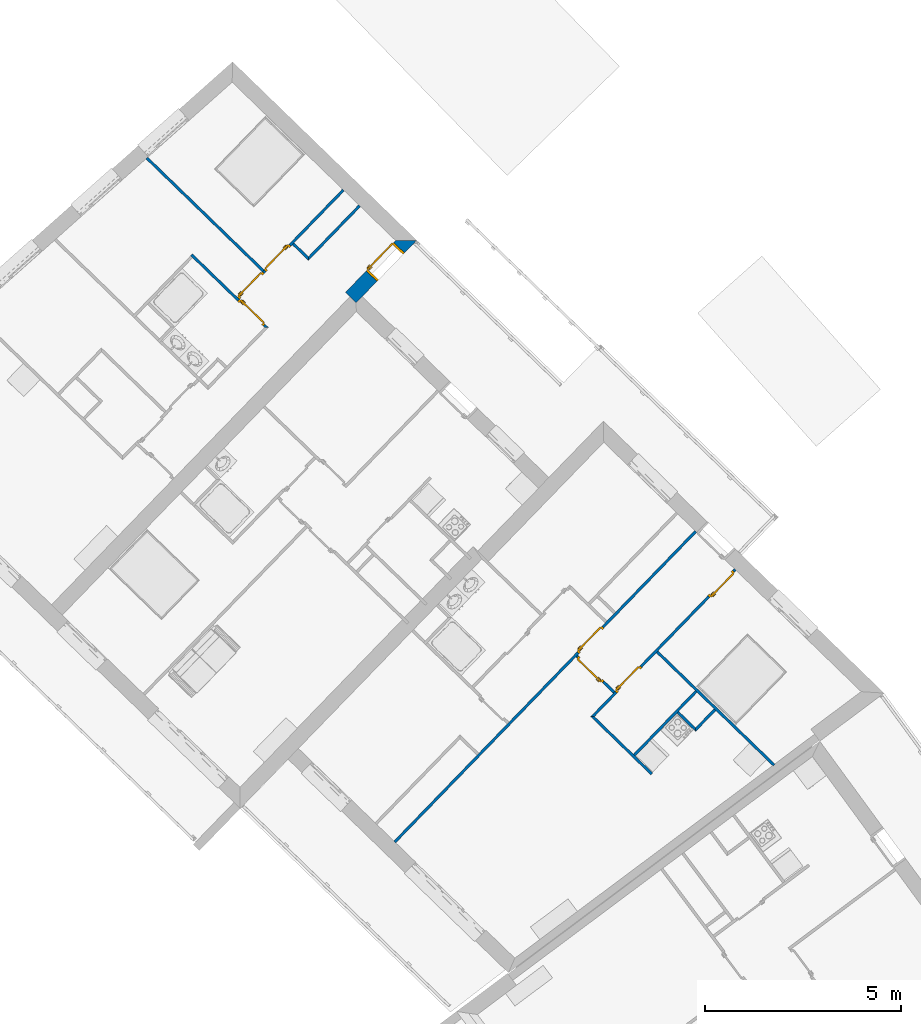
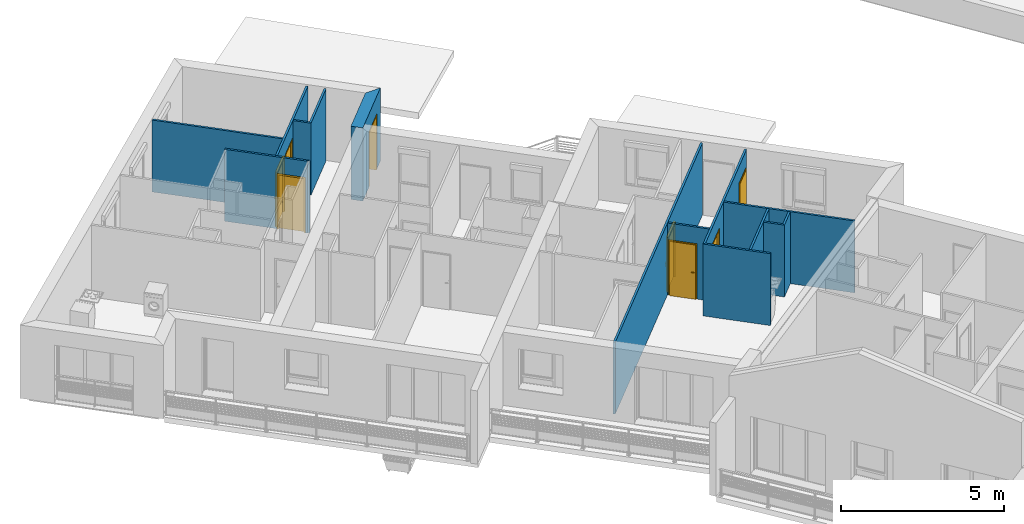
# One storey, part 18 of 121: 14 walls, 8 doors, 8 openings.
"""IFC2X3 building model written with IfcOpenShell, lengths in metres."""

from ifc_helpers import new_model, entity, si_unit, converted_unit, derived_unit, money_unit, direction, frame, origin_with_axes, origin_2d_with_axis, place, context, subcontext, project, spatial, polyline, rectangle, outline, extrude, faceted_brep, source, transform, mapped, material, layer, layer_set, layer_usage, type_object, element, fill, save


model = new_model("IFC2X3")

# Units and contexts
model_context = context("Model", 3, precision=1e-05, world=origin_with_axes(), true_north=direction((0.0, 1.0)))
body_context = subcontext(model_context, "Body", "Model", "MODEL_VIEW")
ifc_project = project(units=[si_unit("LENGTHUNIT", "METRE"), si_unit("AREAUNIT", "SQUARE_METRE"), si_unit("VOLUMEUNIT", "CUBIC_METRE"), converted_unit("PLANEANGLEUNIT", "DEGREE", entity("IfcPlaneAngleMeasure", 0.0174532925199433), si_unit("PLANEANGLEUNIT", "RADIAN"), dimensions=[0, 0, 0, 0, 0, 0, 0]), money_unit("CHF"), converted_unit("TIMEUNIT", "Year", entity("IfcTimeMeasure", 31557600.0), si_unit("TIMEUNIT", "SECOND"), dimensions=[0, 0, 1, 0, 0, 0, 0]), si_unit("MASSUNIT", "GRAM", prefix="KILO"), si_unit("THERMODYNAMICTEMPERATUREUNIT", "DEGREE_CELSIUS"), si_unit("LUMINOUSINTENSITYUNIT", "LUMEN"), si_unit("ENERGYUNIT", "JOULE", prefix="MEGA"), derived_unit("THERMALCONDUCTANCEUNIT", [(si_unit("POWERUNIT", "WATT"), 1), (si_unit("LENGTHUNIT", "METRE"), -1), (si_unit("THERMODYNAMICTEMPERATUREUNIT", "KELVIN"), -1)]), derived_unit("SPECIFICHEATCAPACITYUNIT", [(si_unit("ENERGYUNIT", "JOULE"), 1), (si_unit("MASSUNIT", "GRAM", prefix="KILO"), -1), (si_unit("THERMODYNAMICTEMPERATUREUNIT", "KELVIN"), -1)]), derived_unit("MASSDENSITYUNIT", [(si_unit("MASSUNIT", "GRAM", prefix="KILO"), 1), (si_unit("VOLUMEUNIT", "CUBIC_METRE"), -1)])], contexts=[model_context])

# Site, building, storey
site_placement = place(None, origin_with_axes())
site = spatial("IfcSite", under=ifc_project, at=site_placement, Name="Site", CompositionType="ELEMENT")
building_placement = place(site_placement, origin_with_axes())
building = spatial("IfcBuilding", under=site, at=building_placement, Name="Bâtiment", CompositionType="ELEMENT")
storey_placement = place(building_placement, frame((0.0, 0.0, 2.75), z_axis=(0.0, 0.0, 1.0), x_axis=(1.0, 0.0, 0.0)))
storey = spatial("IfcBuildingStorey", under=building, at=storey_placement, Name="Etage 1", CompositionType="ELEMENT", Elevation=2.75)

# Wall
ifc_material_1 = material(Name="Hachure solide 268963992")
ifc_layer_1 = layer(ifc_material_1, 0.07, ventilated="UNKNOWN")
ifc_layer_set_1 = layer_set([ifc_layer_1], Name="Cloison 70 0826278243")
ifc_layer_usage_1 = layer_usage(ifc_layer_set_1, "AXIS2", "POSITIVE", 0.0)
wall_type_1 = type_object("IfcWallType", Name="Cloison 70 0826278243 70", PredefinedType="NOTDEFINED")
wall_1_placement = place(storey_placement, frame((9534.341174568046, -1069.380349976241, 57.7), z_axis=(0.0, 0.0, 1.0), x_axis=(-0.7181763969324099, 0.6958610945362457, 0.0)))
element("IfcWallStandardCase", 1, at=wall_1_placement, inside=storey, type_object=wall_type_1, material=ifc_layer_usage_1, Name="Mur-149", context=body_context, shape_type="SweptSolid", body=[
    extrude(outline(polyline([(0.0, 0.0), (0.6000000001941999, 0.0), (0.600000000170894, 0.06999999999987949), (-0.07000000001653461, 0.06999999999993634), (0.0, 0.0)])), origin_with_axes(), (0.0, 0.0, 1.0), 2.7),
])

# Wall, opening, door
ifc_layer_usage_2 = layer_usage(ifc_layer_set_1, "AXIS2", "POSITIVE", 0.0)
wall_2_placement = place(storey_placement, frame((9534.584027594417, -1064.073933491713, 57.7), z_axis=(0.0, 0.0, 1.0), x_axis=(-0.695861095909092, -0.7181763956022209, 0.0)))
wall_2 = element("IfcWallStandardCase", 2, at=wall_2_placement, inside=storey, type_object=wall_type_1, material=ifc_layer_usage_2, Name="Mur-149", context=body_context, shape_type="SweptSolid", body=[
    extrude(outline(polyline([(0.3799999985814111, 0.0), (11.41300708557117, 0.0), (11.41300708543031, 0.06999999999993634), (0.3799999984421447, 0.07000000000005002), (0.3799999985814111, 0.0)])), origin_with_axes(), (0.0, 0.0, 1.0), 2.7),
])
opening_1_placement = place(wall_2_placement, frame((4.240435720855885, 0.0, 0.0), z_axis=(0.0, 0.0, 1.0), x_axis=(1.0, 0.0, 0.0)))
opening_1 = element("IfcOpeningElement", 3, at=opening_1_placement, cuts=wall_2, Name="Por-315", context=body_context, shape_type="SweptSolid", body=[
    extrude(rectangle(XDim=0.9099999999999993, YDim=2.079999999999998, at=origin_2d_with_axis()), frame((0.0, 0.06999999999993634, 1.039999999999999), z_axis=(0.0, -1.0, 0.0), x_axis=(-1.0, 0.0, 0.0)), (0.0, 0.0, 1.0), 0.14),
])
door_style = type_object("IfcDoorStyle", Name="Porte_1v", ConstructionType="NOTDEFINED", OperationType="NOTDEFINED", ParameterTakesPrecedence=False, Sizeable=False)
shared_shape_1 = source(origin_with_axes(), body_context, "Body", "Brep", [
    faceted_brep([(0.455, 0.0, 0.0), (0.415, 0.0, 0.0), (0.415, 0.0, 2.04), (-0.415, 0.0, 2.04), (-0.415, 0.0, 0.0), (-0.455, 0.0, 0.0), (-0.455, 0.0, 2.08), (0.455, 0.0, 2.08), (0.455, -0.07, 0.0), (0.4, -0.07, 0.0), (0.4, -0.015, 0.0), (0.415, -0.015, 0.0), (0.415, -0.015, 2.04), (-0.415, -0.015, 2.04), (-0.415, -0.015, 0.0), (-0.4, -0.015, 0.0), (-0.4, -0.07, 0.0), (-0.455, -0.07, 0.0), (-0.455, -0.07, 2.08), (0.455, -0.07, 2.08), (-0.4, -0.07, 2.025), (0.4, -0.07, 2.025), (0.4, -0.015, 2.025), (-0.4, -0.015, 2.025)], [[[0, 1, 2, 3, 4, 5, 6, 7]], [[0, 8, 9, 10, 11, 1]], [[1, 11, 12, 2]], [[2, 12, 13, 3]], [[3, 13, 14, 4]], [[5, 4, 14, 15, 16, 17]], [[18, 6, 5, 17]], [[19, 7, 6, 18]], [[8, 0, 7, 19]], [[9, 8, 19, 18, 17, 16, 20, 21]], [[10, 9, 21, 22]], [[11, 10, 22, 23, 15, 14, 13, 12]], [[23, 20, 16, 15]], [[22, 21, 20, 23]]]),
    faceted_brep([(-0.35, -0.015, 0.9), (-0.39, -0.015, 0.9), (-0.39, -0.015, 1.1), (-0.35, -0.015, 1.1), (-0.35, -0.025, 0.9), (-0.39, -0.025, 0.9), (-0.39, -0.025, 1.1), (-0.35, -0.025, 1.1)], [[[0, 1, 2, 3]], [[1, 0, 4, 5]], [[2, 1, 5, 6]], [[3, 2, 6, 7]], [[0, 3, 7, 4]], [[5, 4, 7, 6]]]),
    faceted_brep([(-0.28, -0.025, 1.0), (-0.38, -0.025, 1.0), (-0.38, -0.025, 1.02), (-0.28, -0.025, 1.02), (-0.28, -0.045, 1.0), (-0.38, -0.045, 1.0), (-0.38, -0.045, 1.02), (-0.28, -0.045, 1.02)], [[[0, 1, 2, 3]], [[1, 0, 4, 5]], [[2, 1, 5, 6]], [[3, 2, 6, 7]], [[0, 3, 7, 4]], [[5, 4, 7, 6]]]),
    faceted_brep([(-0.35, 0.035, 0.9), (-0.39, 0.035, 0.9), (-0.39, 0.035, 1.1), (-0.35, 0.035, 1.1), (-0.35, 0.025, 0.9), (-0.39, 0.025, 0.9), (-0.39, 0.025, 1.1), (-0.35, 0.025, 1.1)], [[[0, 1, 2, 3]], [[1, 0, 4, 5]], [[2, 1, 5, 6]], [[3, 2, 6, 7]], [[0, 3, 7, 4]], [[5, 4, 7, 6]]]),
    faceted_brep([(-0.28, 0.05500000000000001, 1.0), (-0.38, 0.05500000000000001, 1.0), (-0.38, 0.05500000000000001, 1.02), (-0.28, 0.05500000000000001, 1.02), (-0.28, 0.035, 1.0), (-0.38, 0.035, 1.0), (-0.38, 0.035, 1.02), (-0.28, 0.035, 1.02)], [[[0, 1, 2, 3]], [[1, 0, 4, 5]], [[2, 1, 5, 6]], [[3, 2, 6, 7]], [[0, 3, 7, 4]], [[5, 4, 7, 6]]]),
    faceted_brep([(-0.415, 0.025, 0.0), (0.415, 0.025, 0.0), (0.415, -0.015, 0.0), (-0.415, -0.015, 0.0), (-0.415, 0.025, 2.04), (0.415, 0.025, 2.04), (0.415, -0.015, 2.04), (-0.415, -0.015, 2.04)], [[[0, 1, 2, 3]], [[0, 4, 5, 1]], [[1, 5, 6, 2]], [[3, 2, 6, 7]], [[4, 0, 3, 7]], [[5, 4, 7, 6]]]),
])
door_1_placement = place(opening_1_placement, frame((0.4149999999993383, 0.0, 0.0), z_axis=(0.0, 0.0, 1.0), x_axis=(-1.0, 0.0, 0.0)))
door_1 = element("IfcDoor", 4, at=door_1_placement, inside=storey, type_object=door_style, Name="Por-315", OverallHeight=2.04, OverallWidth=0.83, context=body_context, shape_type="MappedRepresentation", body=[
    mapped(shared_shape_1, transform((0.4150000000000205, 0.0, 0.0))),
])
fill(opening_1, door_1)

# Walls
ifc_layer_usage_3 = layer_usage(ifc_layer_set_1, "AXIS2", "POSITIVE", 0.0)
wall_3_placement = place(storey_placement, frame((9523.384226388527, -1057.7469375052, 57.7), z_axis=(0.0, 0.0, 1.0), x_axis=(-0.7181763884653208, 0.6958611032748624, 0.0)))
element("IfcWallStandardCase", 5, at=wall_3_placement, inside=storey, type_object=wall_type_1, material=ifc_layer_usage_3, Name="Mur-149", context=body_context, shape_type="SweptSolid", body=[
    extrude(outline(polyline([(0.06999999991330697, 0.0), (4.200674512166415, 0.0), (4.205864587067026, 0.07000000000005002), (0.06999999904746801, 0.07000000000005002), (0.06999999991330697, 0.0)])), origin_with_axes(), (0.0, 0.0, 1.0), 2.7),
])
ifc_layer_usage_4 = layer_usage(ifc_layer_set_1, "AXIS2", "NEGATIVE", 0.0)
wall_4_placement = place(storey_placement, frame((9524.463749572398, -1057.46153290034, 57.7), z_axis=(0.0, 0.0, 1.0), x_axis=(-0.7181763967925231, 0.6958610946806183, 0.0)))
element("IfcWallStandardCase", 6, at=wall_4_placement, inside=storey, type_object=wall_type_1, material=ifc_layer_usage_4, Name="Mur-149", context=body_context, shape_type="SweptSolid", body=[
    extrude(outline(polyline([(0.07000000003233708, -0.07000000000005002), (0.5766861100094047, -0.06999999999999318), (0.5766861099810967, 0.0), (0.0, 0.0), (0.07000000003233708, -0.07000000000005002)])), origin_with_axes(), (0.0, 0.0, 1.0), 2.7),
])

# Wall, opening, door
ifc_layer_usage_5 = layer_usage(ifc_layer_set_1, "AXIS2", "NEGATIVE", 0.0)
wall_5_placement = place(storey_placement, frame((9523.393293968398, -1059.21775960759, 57.7), z_axis=(0.0, 0.0, 1.0), x_axis=(-0.7181763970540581, 0.6958610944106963, 0.0)))
wall_5 = element("IfcWallStandardCase", 7, at=wall_5_placement, inside=storey, type_object=wall_type_1, material=ifc_layer_usage_5, Name="Mur-149", context=body_context, shape_type="SweptSolid", body=[
    extrude(outline(polyline([(0.0, -0.06999999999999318), (2.69526710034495, -0.07000000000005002), (2.695267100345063, 0.0), (0.07000000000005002, 0.0), (0.0, -0.06999999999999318)])), origin_with_axes(), (0.0, 0.0, 1.0), 2.7),
])
opening_2_placement = place(wall_5_placement, frame((0.5749999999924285, 0.0, 0.0), z_axis=(0.0, 0.0, 1.0), x_axis=(1.0, 0.0, 0.0)))
opening_2 = element("IfcOpeningElement", 8, at=opening_2_placement, cuts=wall_5, Name="Por-308", context=body_context, shape_type="SweptSolid", body=[
    extrude(rectangle(XDim=0.9099999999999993, YDim=2.079999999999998, at=origin_2d_with_axis()), frame((0.0, 0.07000000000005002, 1.039999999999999), z_axis=(0.0, -1.0, 0.0), x_axis=(-1.0, 0.0, 0.0)), (0.0, 0.0, 1.0), 0.14),
])
door_2_placement = place(opening_2_placement, frame((0.4149999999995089, 0.0, 0.0), z_axis=(0.0, 0.0, 1.0), x_axis=(-1.0, 0.0, 0.0)))
door_2 = element("IfcDoor", 9, at=door_2_placement, inside=storey, type_object=door_style, Name="Por-308", OverallHeight=2.04, OverallWidth=0.83, context=body_context, shape_type="MappedRepresentation", body=[
    mapped(shared_shape_1, transform((0.4149999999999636, 0.06999999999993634, 0.0))),
])
fill(opening_2, door_2)

# Wall
ifc_layer_usage_6 = layer_usage(ifc_layer_set_1, "AXIS2", "POSITIVE", 0.0)
wall_6_placement = place(storey_placement, frame((9524.463749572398, -1057.46153290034, 57.7), z_axis=(0.0, 0.0, 1.0), x_axis=(0.6958610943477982, 0.7181763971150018, 0.0)))
element("IfcWallStandardCase", 10, at=wall_6_placement, inside=storey, type_object=wall_type_1, material=ifc_layer_usage_6, Name="Mur-149", context=body_context, shape_type="SweptSolid", body=[
    extrude(outline(polyline([(0.0, 0.0), (1.913437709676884, 0.0), (1.913437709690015, 0.06999999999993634), (0.07000000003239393, 0.06999999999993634), (0.0, 0.0)])), origin_with_axes(), (0.0, 0.0, 1.0), 2.7),
])

# Wall, openings, doors
ifc_layer_usage_7 = layer_usage(ifc_layer_set_1, "AXIS2", "POSITIVE", 0.0)
wall_7_placement = place(storey_placement, frame((9522.65357227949, -1058.501022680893, 57.7), z_axis=(0.0, 0.0, 1.0), x_axis=(0.6958610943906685, 0.7181763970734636, 0.0)))
wall_7 = element("IfcWallStandardCase", 11, at=wall_7_placement, inside=storey, type_object=wall_type_1, material=ifc_layer_usage_7, Name="Mur-149", context=body_context, shape_type="SweptSolid", body=[
    extrude(outline(polyline([(0.07000000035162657, 0.0), (3.919606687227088, 0.0), (3.919606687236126, 0.06999999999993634), (0.07000000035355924, 0.07000000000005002), (0.07000000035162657, 0.0)])), origin_with_axes(), (0.0, 0.0, 1.0), 2.7),
])
opening_3_placement = place(wall_7_placement, frame((0.5249999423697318, 0.0, 0.0), z_axis=(0.0, 0.0, 1.0), x_axis=(1.0, 0.0, 0.0)))
opening_3 = element("IfcOpeningElement", 12, at=opening_3_placement, cuts=wall_7, Name="Por-308", context=body_context, shape_type="SweptSolid", body=[
    extrude(rectangle(XDim=0.9099999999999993, YDim=2.079999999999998, at=origin_2d_with_axis()), frame((0.0, -0.07000000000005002, 1.039999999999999), z_axis=(0.0, 1.0, 0.0), x_axis=(1.0, 0.0, 0.0)), (0.0, 0.0, 1.0), 0.14),
])
opening_4_placement = place(wall_7_placement, frame((1.504999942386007, 0.0, 0.0), z_axis=(0.0, 0.0, 1.0), x_axis=(1.0, 0.0, 0.0)))
opening_4 = element("IfcOpeningElement", 13, at=opening_4_placement, cuts=wall_7, Name="Por-308", context=body_context, shape_type="SweptSolid", body=[
    extrude(rectangle(XDim=0.9099999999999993, YDim=2.079999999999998, at=origin_2d_with_axis()), frame((0.0, -0.06999999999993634, 1.039999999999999), z_axis=(0.0, -1.0, 0.0), x_axis=(-1.0, 0.0, 0.0)), (0.0, 0.0, -1.0), 0.14),
])
door_3_placement = place(opening_3_placement, frame((-0.4150000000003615, 0.0, 0.0), z_axis=(0.0, 0.0, 1.0), x_axis=(1.0, 0.0, 0.0)))
door_3 = element("IfcDoor", 14, at=door_3_placement, inside=storey, type_object=door_style, Name="Por-308", OverallHeight=2.04, OverallWidth=0.83, context=body_context, shape_type="MappedRepresentation", body=[
    mapped(shared_shape_1, transform((0.4149999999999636, 0.07000000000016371, 0.0))),
])
fill(opening_3, door_3)
shared_shape_2 = source(origin_with_axes(), body_context, "Body", "Brep", [
    faceted_brep([(-0.455, 0.0, 0.0), (-0.455, 0.0, 2.08), (0.455, 0.0, 2.08), (0.455, 0.0, 0.0), (0.415, 0.0, 0.0), (0.415, 0.0, 2.04), (-0.415, 0.0, 2.04), (-0.415, 0.0, 0.0), (-0.455, -0.07, 0.0), (-0.455, -0.07, 2.08), (0.455, -0.07, 2.08), (0.455, -0.07, 0.0), (0.4, -0.07, 0.0), (0.4, -0.015, 0.0), (0.415, -0.015, 0.0), (0.415, -0.015, 2.04), (-0.415, -0.015, 2.04), (-0.415, -0.015, 0.0), (-0.4, -0.015, 0.0), (-0.4, -0.07, 0.0), (-0.4, -0.07, 2.025), (0.4, -0.07, 2.025), (0.4, -0.015, 2.025), (-0.4, -0.015, 2.025)], [[[0, 1, 2, 3, 4, 5, 6, 7]], [[8, 9, 1, 0]], [[9, 10, 2, 1]], [[10, 11, 3, 2]], [[3, 11, 12, 13, 14, 4]], [[5, 4, 14, 15]], [[6, 5, 15, 16]], [[7, 6, 16, 17]], [[0, 7, 17, 18, 19, 8]], [[19, 20, 21, 12, 11, 10, 9, 8]], [[22, 13, 12, 21]], [[17, 16, 15, 14, 13, 22, 23, 18]], [[18, 23, 20, 19]], [[23, 22, 21, 20]]]),
    faceted_brep([(0.35, -0.015, 0.9), (0.35, -0.015, 1.1), (0.39, -0.015, 1.1), (0.39, -0.015, 0.9), (0.35, -0.025, 0.9), (0.35, -0.025, 1.1), (0.39, -0.025, 1.1), (0.39, -0.025, 0.9)], [[[0, 1, 2, 3]], [[0, 4, 5, 1]], [[1, 5, 6, 2]], [[2, 6, 7, 3]], [[3, 7, 4, 0]], [[7, 6, 5, 4]]]),
    faceted_brep([(0.28, -0.025, 1.0), (0.28, -0.025, 1.02), (0.38, -0.025, 1.02), (0.38, -0.025, 1.0), (0.28, -0.045, 1.0), (0.28, -0.045, 1.02), (0.38, -0.045, 1.02), (0.38, -0.045, 1.0)], [[[0, 1, 2, 3]], [[0, 4, 5, 1]], [[1, 5, 6, 2]], [[2, 6, 7, 3]], [[3, 7, 4, 0]], [[7, 6, 5, 4]]]),
    faceted_brep([(0.35, 0.035, 0.9), (0.35, 0.035, 1.1), (0.39, 0.035, 1.1), (0.39, 0.035, 0.9), (0.35, 0.025, 0.9), (0.35, 0.025, 1.1), (0.39, 0.025, 1.1), (0.39, 0.025, 0.9)], [[[0, 1, 2, 3]], [[0, 4, 5, 1]], [[1, 5, 6, 2]], [[2, 6, 7, 3]], [[3, 7, 4, 0]], [[7, 6, 5, 4]]]),
    faceted_brep([(0.28, 0.05500000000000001, 1.0), (0.28, 0.05500000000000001, 1.02), (0.38, 0.05500000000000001, 1.02), (0.38, 0.05500000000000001, 1.0), (0.28, 0.035, 1.0), (0.28, 0.035, 1.02), (0.38, 0.035, 1.02), (0.38, 0.035, 1.0)], [[[0, 1, 2, 3]], [[0, 4, 5, 1]], [[1, 5, 6, 2]], [[2, 6, 7, 3]], [[3, 7, 4, 0]], [[7, 6, 5, 4]]]),
    faceted_brep([(0.415, 0.025, 0.0), (0.415, -0.015, 0.0), (-0.415, -0.015, 0.0), (-0.415, 0.025, 0.0), (0.415, 0.025, 2.04), (0.415, -0.015, 2.04), (-0.415, -0.015, 2.04), (-0.415, 0.025, 2.04)], [[[0, 1, 2, 3]], [[4, 5, 1, 0]], [[1, 5, 6, 2]], [[3, 2, 6, 7]], [[0, 3, 7, 4]], [[7, 6, 5, 4]]]),
])
door_4_placement = place(opening_4_placement, frame((-0.4150000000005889, 0.0, 0.0), z_axis=(0.0, 0.0, 1.0), x_axis=(1.0, 0.0, 0.0)))
door_4 = element("IfcDoor", 15, at=door_4_placement, inside=storey, type_object=door_style, Name="Por-308", OverallHeight=2.04, OverallWidth=0.83, context=body_context, shape_type="MappedRepresentation", body=[
    mapped(shared_shape_2, transform((0.4149999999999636, 0.07000000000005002, 0.0))),
])
fill(opening_4, door_4)

ifc_layer_usage_8 = layer_usage(ifc_layer_set_1, "AXIS2", "POSITIVE", 0.0)
wall_8_placement = place(storey_placement, frame((9535.5881225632, -1065.046829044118, 57.7), z_axis=(0.0, 0.0, 1.0), x_axis=(-0.6958610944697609, -0.7181763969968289, 0.0)))
wall_8 = element("IfcWallStandardCase", 16, at=wall_8_placement, inside=storey, type_object=wall_type_1, material=ifc_layer_usage_8, Name="Mur-149", context=body_context, shape_type="SweptSolid", body=[
    extrude(outline(polyline([(0.3800000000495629, 0.0), (5.641309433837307, 0.0), (5.571309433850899, 0.06999999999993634), (0.3800000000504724, 0.06999999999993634), (0.3800000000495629, 0.0)])), origin_with_axes(), (0.0, 0.0, 1.0), 2.7),
])
opening_5_placement = place(wall_8_placement, frame((4.288332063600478, 0.0, 0.0), z_axis=(0.0, 0.0, 1.0), x_axis=(1.0, 0.0, 0.0)))
opening_5 = element("IfcOpeningElement", 17, at=opening_5_placement, cuts=wall_8, Name="Por-316", context=body_context, shape_type="SweptSolid", body=[
    extrude(rectangle(XDim=0.9099999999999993, YDim=2.079999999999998, at=origin_2d_with_axis()), frame((0.0, 0.06999999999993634, 1.039999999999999), z_axis=(0.0, -1.0, 0.0), x_axis=(-1.0, 0.0, 0.0)), (0.0, 0.0, 1.0), 0.14),
])
opening_6_placement = place(wall_8_placement, frame((0.891687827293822, 0.0, 0.0), z_axis=(0.0, 0.0, 1.0), x_axis=(1.0, 0.0, 0.0)))
opening_6 = element("IfcOpeningElement", 18, at=opening_6_placement, cuts=wall_8, Name="Por-314", context=body_context, shape_type="SweptSolid", body=[
    extrude(rectangle(XDim=0.9099999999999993, YDim=2.079999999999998, at=origin_2d_with_axis()), frame((0.0, -0.07000000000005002, 1.039999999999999), z_axis=(0.0, -1.0, 0.0), x_axis=(-1.0, 0.0, 0.0)), (0.0, 0.0, -1.0), 0.14),
])
door_5_placement = place(opening_5_placement, frame((0.4149999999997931, 0.0, 0.0), z_axis=(0.0, 0.0, 1.0), x_axis=(-1.0, 0.0, 0.0)))
door_5 = element("IfcDoor", 19, at=door_5_placement, inside=storey, type_object=door_style, Name="Por-316", OverallHeight=2.04, OverallWidth=0.83, context=body_context, shape_type="MappedRepresentation", body=[
    mapped(shared_shape_1, transform((0.4150000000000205, 0.0, 0.0))),
])
fill(opening_5, door_5)
door_6_placement = place(opening_6_placement, frame((-0.4150000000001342, 0.0, 0.0), z_axis=(0.0, 0.0, 1.0), x_axis=(1.0, 0.0, 0.0)))
door_6 = element("IfcDoor", 20, at=door_6_placement, inside=storey, type_object=door_style, Name="Por-314", OverallHeight=2.04, OverallWidth=0.83, context=body_context, shape_type="MappedRepresentation", body=[
    mapped(shared_shape_2, transform((0.4149999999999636, 0.07000000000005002, 0.0))),
])
fill(opening_6, door_6)

# Walls
ifc_layer_usage_9 = layer_usage(ifc_layer_set_1, "AXIS2", "POSITIVE", 0.0)
wall_9_placement = place(storey_placement, frame((9536.370036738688, -1070.312314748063, 57.7), z_axis=(0.0, 0.0, 1.0), x_axis=(-0.7181763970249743, 0.6958610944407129, 0.0)))
element("IfcWallStandardCase", 21, at=wall_9_placement, inside=storey, type_object=wall_type_1, material=ifc_layer_usage_9, Name="Mur-149", context=body_context, shape_type="SweptSolid", body=[
    extrude(outline(polyline([(0.0, 0.0), (4.155598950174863, 0.0), (4.155598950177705, 0.06999999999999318), (0.0, 0.07000000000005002), (0.0, 0.0)])), origin_with_axes(), (0.0, 0.0, 1.0), 2.7),
])
ifc_layer_usage_10 = layer_usage(ifc_layer_set_1, "AXIS2", "POSITIVE", 0.0)
wall_10_placement = place(storey_placement, frame((9534.3766670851, -1068.380883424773, 57.7), z_axis=(0.0, 0.0, 1.0), x_axis=(-0.6958610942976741, -0.7181763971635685, 0.0)))
element("IfcWallStandardCase", 22, at=wall_10_placement, inside=storey, type_object=wall_type_1, material=ifc_layer_usage_10, Name="Mur-149", context=body_context, shape_type="SweptSolid", body=[
    extrude(outline(polyline([(0.07000000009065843, 0.0), (2.333865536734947, 0.0), (2.333865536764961, 0.06999999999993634), (0.07000000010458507, 0.06999999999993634), (0.07000000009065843, 0.0)])), origin_with_axes(), (0.0, 0.0, 1.0), 2.7),
])
ifc_layer_usage_11 = layer_usage(ifc_layer_set_1, "AXIS2", "NEGATIVE", 0.0)
wall_11_placement = place(storey_placement, frame((9533.198582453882, -1070.586584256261, 57.7), z_axis=(0.0, 0.0, 1.0), x_axis=(-0.7181763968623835, 0.6958610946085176, 0.0)))
element("IfcWallStandardCase", 23, at=wall_11_placement, inside=storey, type_object=wall_type_1, material=ifc_layer_usage_11, Name="Mur-149", context=body_context, shape_type="SweptSolid", body=[
    extrude(outline(polyline([(0.0, -0.06999999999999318), (2.068788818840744, -0.06999999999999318), (2.138788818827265, 0.0), (0.0, 0.0), (0.0, -0.06999999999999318)])), origin_with_axes(), (0.0, 0.0, 1.0), 2.7),
])
ifc_layer_usage_12 = layer_usage(ifc_layer_set_1, "AXIS2", "POSITIVE", 0.0)
wall_12_placement = place(storey_placement, frame((9534.857845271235, -1068.847110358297, 57.7), z_axis=(0.0, 0.0, 1.0), x_axis=(-0.6958610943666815, -0.7181763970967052, 0.0)))
element("IfcWallStandardCase", 24, at=wall_12_placement, inside=storey, type_object=wall_type_1, material=ifc_layer_usage_12, Name="Mur-149", context=body_context, shape_type="SweptSolid", body=[
    extrude(outline(polyline([(0.07000000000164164, 0.0), (0.7424911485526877, 0.0), (0.8124911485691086, 0.06999999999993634), (0.0700000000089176, 0.06999999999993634), (0.07000000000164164, 0.0)])), origin_with_axes(), (0.0, 0.0, 1.0), 2.7),
])

# Wall, opening, door
ifc_layer_usage_13 = layer_usage(ifc_layer_set_1, "AXIS2", "POSITIVE", 0.0)
wall_13_placement = place(storey_placement, frame((9532.287422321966, -1068.453378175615, 57.7), z_axis=(0.0, 0.0, 1.0), x_axis=(-0.7181763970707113, 0.695861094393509, 0.0)))
wall_13 = element("IfcWallStandardCase", 25, at=wall_13_placement, inside=storey, type_object=wall_type_1, material=ifc_layer_usage_13, Name="Mur-149", context=body_context, shape_type="SweptSolid", body=[
    extrude(outline(polyline([(1.928128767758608e-10, 0.0), (1.328117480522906, 0.0), (1.328117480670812, 0.07000000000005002), (2.004298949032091e-10, 0.07000000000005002), (1.928128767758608e-10, 0.0)])), origin_with_axes(), (0.0, 0.0, 1.0), 2.7),
])
opening_7_placement = place(wall_13_placement, frame((0.8422098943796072, 0.0, 0.0), z_axis=(0.0, 0.0, 1.0), x_axis=(1.0, 0.0, 0.0)))
opening_7 = element("IfcOpeningElement", 26, at=opening_7_placement, cuts=wall_13, Name="Por-317", context=body_context, shape_type="SweptSolid", body=[
    extrude(rectangle(XDim=0.9099999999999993, YDim=2.079999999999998, at=origin_2d_with_axis()), frame((0.0, -0.07000000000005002, 1.039999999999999), z_axis=(0.0, 1.0, 0.0), x_axis=(1.0, 0.0, 0.0)), (0.0, 0.0, 1.0), 0.14),
])
door_7_placement = place(opening_7_placement, frame((-0.4149999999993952, 0.0, 0.0), z_axis=(0.0, 0.0, 1.0), x_axis=(1.0, 0.0, 0.0)))
door_7 = element("IfcDoor", 27, at=door_7_placement, inside=storey, type_object=door_style, Name="Por-317", OverallHeight=2.04, OverallWidth=0.83, context=body_context, shape_type="MappedRepresentation", body=[
    mapped(shared_shape_1, transform((0.4149999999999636, 0.06999999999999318, 0.0))),
])
fill(opening_7, door_7)

ifc_material_2 = material(Name="Parpaing 312445824")
ifc_layer_2 = layer(ifc_material_2, 0.22, ventilated="UNKNOWN")
ifc_material_3 = material(Name="Isolant styromousse 301821074")
ifc_layer_3 = layer(ifc_material_3, 0.16, ventilated="UNKNOWN")
ifc_layer_set_2 = layer_set([ifc_layer_2, ifc_layer_3], Name="isol int 22+16 0836643197")
ifc_layer_usage_14 = layer_usage(ifc_layer_set_2, "AXIS2", "POSITIVE", 0.0)
wall_type_2 = type_object("IfcWallType", Name="isol int 22+16 0836643197 380", PredefinedType="NOTDEFINED")
wall_14_placement = place(storey_placement, frame((9525.680677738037, -1058.538392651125, 57.7), z_axis=(0.0, 0.0, 1.0), x_axis=(0.6958610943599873, 0.7181763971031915, 0.0)))
wall_14 = element("IfcWallStandardCase", 28, at=wall_14_placement, inside=storey, type_object=wall_type_2, material=ifc_layer_usage_14, Name="Mur-113", context=body_context, shape_type="SweptSolid", body=[
    extrude(outline(polyline([(0.0, 0.0), (2.220000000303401, 0.0), (1.840000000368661, 0.3799999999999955), (0.0, 0.3799999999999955), (0.0, 0.0)])), origin_with_axes(), (0.0, 0.0, 1.0), 2.75),
])
opening_8_placement = place(wall_14_placement, frame((1.266571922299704, 0.0, 0.0), z_axis=(0.0, 0.0, 1.0), x_axis=(1.0, 0.0, 0.0)))
opening_8 = element("IfcOpeningElement", 29, at=opening_8_placement, cuts=wall_14, Name="Por-297", context=body_context, shape_type="SweptSolid", body=[
    extrude(rectangle(XDim=1.01000001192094, YDim=2.079999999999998, at=origin_2d_with_axis()), frame((5.960430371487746e-09, -0.3799999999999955, 1.039999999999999), z_axis=(0.0, 1.0, 0.0), x_axis=(1.0, 0.0, 0.0)), (0.0, 0.0, 1.0), 0.76),
])
shared_shape_3 = source(origin_with_axes(), body_context, "Body", "Brep", [
    faceted_brep([(0.5049999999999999, 0.0, 0.0), (0.465, 0.0, 0.0), (0.4649999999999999, 0.0, 2.04), (-0.4649999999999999, 0.0, 2.04), (-0.465, 0.0, 0.0), (-0.5049999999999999, 0.0, 0.0), (-0.5049999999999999, 0.0, 2.08), (0.5049999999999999, 0.0, 2.08), (0.5049999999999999, -0.38, 0.0), (0.45, -0.3799999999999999, 0.0), (0.45, -0.01500000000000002, 0.0), (0.465, -0.01500000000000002, 0.0), (0.4649999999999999, -0.01500000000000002, 2.04), (-0.4649999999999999, -0.01499999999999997, 2.04), (-0.465, -0.01499999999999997, 0.0), (-0.45, -0.01499999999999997, 0.0), (-0.45, -0.3799999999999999, 0.0), (-0.5049999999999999, -0.3799999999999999, 0.0), (-0.5049999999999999, -0.3799999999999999, 2.08), (0.5049999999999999, -0.38, 2.08), (-0.45, -0.3799999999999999, 2.025), (0.45, -0.3799999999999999, 2.025), (0.45, -0.01500000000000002, 2.025), (-0.45, -0.01499999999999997, 2.025)], [[[0, 1, 2, 3, 4, 5, 6, 7]], [[0, 8, 9, 10, 11, 1]], [[1, 11, 12, 2]], [[2, 12, 13, 3]], [[3, 13, 14, 4]], [[5, 4, 14, 15, 16, 17]], [[18, 6, 5, 17]], [[19, 7, 6, 18]], [[8, 0, 7, 19]], [[9, 8, 19, 18, 17, 16, 20, 21]], [[10, 9, 21, 22]], [[11, 10, 22, 23, 15, 14, 13, 12]], [[23, 20, 16, 15]], [[22, 21, 20, 23]]]),
    faceted_brep([(-0.4, -0.01499999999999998, 0.9), (-0.4399999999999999, -0.01499999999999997, 0.9), (-0.4399999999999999, -0.01499999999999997, 1.1), (-0.4, -0.01499999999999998, 1.1), (-0.4, -0.02499999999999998, 0.9), (-0.4399999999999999, -0.02499999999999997, 0.9), (-0.4399999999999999, -0.02499999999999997, 1.1), (-0.4, -0.02499999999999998, 1.1)], [[[0, 1, 2, 3]], [[1, 0, 4, 5]], [[2, 1, 5, 6]], [[3, 2, 6, 7]], [[0, 3, 7, 4]], [[5, 4, 7, 6]]]),
    faceted_brep([(-0.3299999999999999, -0.02499999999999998, 1.0), (-0.4299999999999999, -0.02499999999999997, 1.0), (-0.4299999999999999, -0.02499999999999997, 1.02), (-0.3299999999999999, -0.02499999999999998, 1.02), (-0.3299999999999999, -0.04499999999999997, 1.0), (-0.4299999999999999, -0.04499999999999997, 1.0), (-0.4299999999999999, -0.04499999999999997, 1.02), (-0.3299999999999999, -0.04499999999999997, 1.02)], [[[0, 1, 2, 3]], [[1, 0, 4, 5]], [[2, 1, 5, 6]], [[3, 2, 6, 7]], [[0, 3, 7, 4]], [[5, 4, 7, 6]]]),
    faceted_brep([(-0.4, 0.03500000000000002, 0.9), (-0.4399999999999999, 0.03500000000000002, 0.9), (-0.4399999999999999, 0.03500000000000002, 1.1), (-0.4, 0.03500000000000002, 1.1), (-0.4, 0.02500000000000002, 0.9), (-0.4399999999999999, 0.02500000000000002, 0.9), (-0.4399999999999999, 0.02500000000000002, 1.1), (-0.4, 0.02500000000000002, 1.1)], [[[0, 1, 2, 3]], [[1, 0, 4, 5]], [[2, 1, 5, 6]], [[3, 2, 6, 7]], [[0, 3, 7, 4]], [[5, 4, 7, 6]]]),
    faceted_brep([(-0.3299999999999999, 0.05500000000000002, 1.0), (-0.4299999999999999, 0.05500000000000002, 1.0), (-0.4299999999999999, 0.05500000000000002, 1.02), (-0.3299999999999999, 0.05500000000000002, 1.02), (-0.3299999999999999, 0.03500000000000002, 1.0), (-0.4299999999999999, 0.03500000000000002, 1.0), (-0.4299999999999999, 0.03500000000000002, 1.02), (-0.3299999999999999, 0.03500000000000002, 1.02)], [[[0, 1, 2, 3]], [[1, 0, 4, 5]], [[2, 1, 5, 6]], [[3, 2, 6, 7]], [[0, 3, 7, 4]], [[5, 4, 7, 6]]]),
    faceted_brep([(-0.465, 0.02500000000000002, 0.0), (0.465, 0.02499999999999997, 0.0), (0.465, -0.01500000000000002, 0.0), (-0.465, -0.01499999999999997, 0.0), (-0.465, 0.02500000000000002, 2.04), (0.465, 0.02499999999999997, 2.04), (0.465, -0.01500000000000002, 2.04), (-0.465, -0.01499999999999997, 2.04)], [[[0, 1, 2, 3]], [[0, 4, 5, 1]], [[1, 5, 6, 2]], [[3, 2, 6, 7]], [[4, 0, 3, 7]], [[5, 4, 7, 6]]]),
])
door_8_placement = place(opening_8_placement, frame((-0.4650000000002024, 0.0, 0.0), z_axis=(0.0, 0.0, 1.0), x_axis=(1.0, 0.0, 0.0)))
door_8 = element("IfcDoor", 30, at=door_8_placement, inside=storey, type_object=door_style, Name="Por-297", OverallHeight=2.04, OverallWidth=0.93, context=body_context, shape_type="MappedRepresentation", body=[
    mapped(shared_shape_3, transform((0.4650000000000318, 0.3799999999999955, 0.0))),
])
fill(opening_8, door_8)

save(model, "model.ifc")
